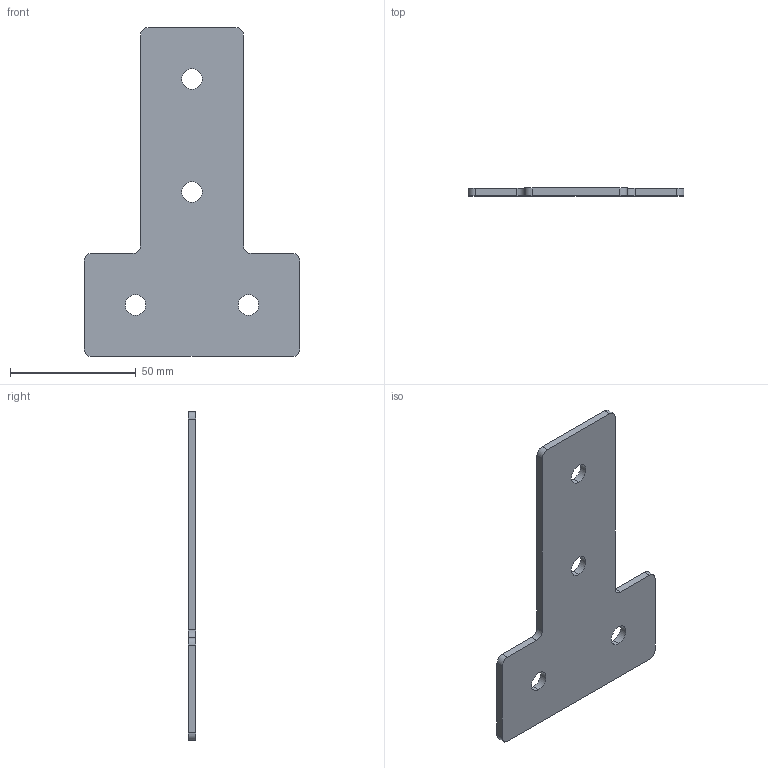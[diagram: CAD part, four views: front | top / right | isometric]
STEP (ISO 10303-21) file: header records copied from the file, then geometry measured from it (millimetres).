
FILE_DESCRIPTION (( 'STEP AP203' ), '1' );
FILE_NAME ('ﾒ-4-45.STEP', '2016-07-22T09:17:31', ( '' ), ( '' ), 'SwSTEP 2.0', 'SolidWorks 2014', '' );
FILE_SCHEMA (( 'CONFIG_CONTROL_DESIGN' ));
Length unit declared in the file: millimetre
Products named in the file (1): ﾒ-4-45
Bounding box: 86 x 3 x 131 mm (x, y, z)
Surface area: 15574.3 mm2 (no closed solid volume)
Topology: 0 solids, 1 shells, 26 faces, 72 edges, 48 vertices
Faces by surface type: cylinder 16, plane 10
Entity records: 941 total; most frequent: DIRECTION 158, CARTESIAN_POINT 147, ORIENTED_EDGE 144, EDGE_CURVE 72, AXIS2_PLACEMENT_3D 59, VERTEX_POINT 48, LINE 40, VECTOR 40
